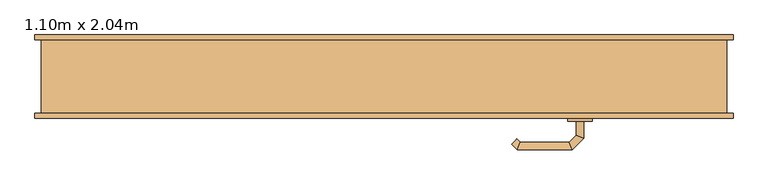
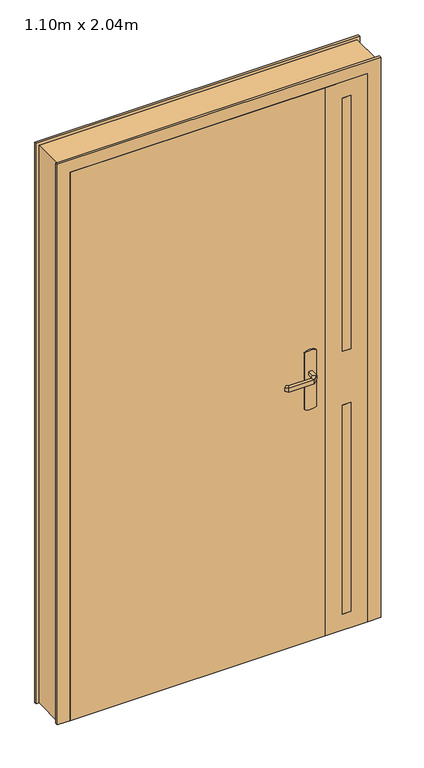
"""IFC4 building model written with IfcOpenShell, lengths in millimetres: door geometry, Tierce  160 : 1.10m x 2.04m."""

from ifc_helpers import new_model, si_unit, point, frame, frame_2d, origin, origin_with_axes, place, context, project, spatial, polyline, circle_curve, ellipse_curve, trimmed, segment, composite_curve, outline, extrude, faceted_brep, source, transform, mapped, element, save
from ifc_brep_helpers import plane_surface, cylinder_surface, advanced_brep


def door_1_10m_x_2_04m_60f23ce3(model_context):
    return source(origin(), model_context, "Body", "SolidModel", [
        advanced_brep(
        [(314.0, -23.0, 993.0), (326.0, -23.0, 993.0), (326.0, -23.0, 1007.0), (314.0, -23.0, 1007.0), (314.0, -0.5147955, 1007.0), (314.0, -0.5147955, 993.0), (326.0, 4.4557673, 1007.0), (326.0, 4.4557673, 993.0), (302.5147186, 10.9704859, 1007.0), (302.5147186, 10.9704859, 993.0), (307.4852814, 22.9704859, 1007.0), (307.4852814, 22.9704859, 993.0), (222.4394977, 10.9704859, 1007.0), (222.4394977, 10.9704859, 993.0), (217.468935, 22.9704859, 1007.0), (217.468935, 22.9704859, 993.0), (217.1257892, 5.6567774, 993.0), (217.1257892, 5.6567774, 1007.0), (208.6405078, 14.1420588, 1007.0), (208.6405078, 14.1420588, 993.0)],
        [
            (0, 1, circle_curve(frame((320.0, -23.0, 1013.0457722), z_axis=(0.0, -1.0, 0.0), x_axis=(1.0, 0.0, 0.0)), 20.9244589)),
            (1, 2),
            (2, 3, circle_curve(frame((320.0, -23.0, 986.9542278), z_axis=(0.0, -1.0, 0.0), x_axis=(1.0, 0.0, 0.0)), 20.9244589)),
            (3, 0),
            (3, 4),
            (4, 5),
            (5, 0),
            (2, 6),
            (6, 4, ellipse_curve(frame((320.0, 1.9704859, 986.9542278), z_axis=(0.38268343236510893, -0.9238795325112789, 0.0), x_axis=(-0.9238795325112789, -0.3826834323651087, 0.0)), 22.6484711, 20.9244589)),
            (1, 7),
            (7, 6),
            (5, 7, ellipse_curve(frame((320.0, 1.9704859, 1013.0457722), z_axis=(0.38268343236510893, -0.9238795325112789, 0.0), x_axis=(-0.9238795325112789, -0.3826834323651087, 0.0)), 22.6484711, 20.9244589)),
            (4, 8),
            (8, 9),
            (9, 5),
            (6, 10),
            (10, 8, ellipse_curve(frame((305.0, 16.9704859, 986.9542278), z_axis=(0.9238795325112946, -0.38268343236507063, 0.0), x_axis=(-0.3826834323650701, -0.9238795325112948, 0.0)), 22.6484711, 20.9244589)),
            (7, 11),
            (11, 10),
            (9, 11, ellipse_curve(frame((305.0, 16.9704859, 1013.0457722), z_axis=(0.9238795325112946, -0.38268343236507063, 0.0), x_axis=(-0.3826834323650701, -0.9238795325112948, 0.0)), 22.6484711, 20.9244589)),
            (8, 12),
            (12, 13),
            (13, 9),
            (10, 14),
            (14, 12, ellipse_curve(frame((219.9542163, 16.9704859, 986.9542278), z_axis=(0.9238795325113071, 0.38268343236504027, 0.0), x_axis=(0.38268343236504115, -0.9238795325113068, 0.0)), 22.6484711, 20.9244589)),
            (11, 15),
            (15, 14),
            (13, 15, ellipse_curve(frame((219.9542163, 16.9704859, 1013.0457722), z_axis=(0.9238795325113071, 0.38268343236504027, 0.0), x_axis=(0.38268343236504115, -0.9238795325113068, 0.0)), 22.6484711, 20.9244589)),
            (16, 17),
            (17, 18, circle_curve(frame((212.8831485, 9.8994181, 986.9542278), z_axis=(-0.7071067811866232, -0.7071067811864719, 0.0), x_axis=(-0.7071067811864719, 0.7071067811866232, 0.0)), 20.9244589)),
            (18, 19),
            (19, 16, circle_curve(frame((212.8831485, 9.8994181, 1013.0457722), z_axis=(-0.7071067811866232, -0.7071067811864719, 0.0), x_axis=(-0.7071067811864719, 0.7071067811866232, 0.0)), 20.9244589)),
            (12, 17),
            (16, 13),
            (14, 18),
            (15, 19),
        ],
        [
            plane_surface(frame((329.2195445, -23.0, 1000.0), z_axis=(0.0, -1.0, 0.0), x_axis=(0.0, 0.0, 1.0))),
            plane_surface(frame((314.0, -23.0, 993.0), z_axis=(-1.0, 0.0, 0.0), x_axis=(0.0, 1.0, 0.0))),
            cylinder_surface(frame((320.0, -23.0, 986.9542278), z_axis=(0.0, -1.0, 0.0), x_axis=(1.0, 0.0, 0.0)), 20.9244589),
            plane_surface(frame((326.0, -23.0, 1007.0), z_axis=(1.0, 0.0, 0.0), x_axis=(0.0, 1.0, 0.0))),
            cylinder_surface(frame((320.0, -23.0, 1013.0457722), z_axis=(0.0, -1.0, 0.0), x_axis=(1.0, 0.0, 0.0)), 20.9244589),
            plane_surface(frame((314.0, -0.5147955, 993.0), z_axis=(-0.707106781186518, -0.707106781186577, 0.0), x_axis=(-0.707106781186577, 0.707106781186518, 0.0))),
            cylinder_surface(frame((320.0, 1.9704859, 986.9542278), z_axis=(0.7071067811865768, -0.7071067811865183, 0.0), x_axis=(0.7071067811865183, 0.7071067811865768, 0.0)), 20.9244589),
            plane_surface(frame((326.0, 4.4557673, 1007.0), z_axis=(0.7071067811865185, 0.7071067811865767, 0.0), x_axis=(-0.7071067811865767, 0.7071067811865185, 0.0))),
            cylinder_surface(frame((320.0, 1.9704859, 1013.0457722), z_axis=(0.7071067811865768, -0.7071067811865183, 0.0), x_axis=(0.7071067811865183, 0.7071067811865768, 0.0)), 20.9244589),
            plane_surface(frame((302.5147186, 10.9704859, 993.0), z_axis=(0.0, -1.0, 0.0), x_axis=(-1.0, 0.0, 0.0))),
            cylinder_surface(frame((305.0, 16.9704859, 986.9542278), z_axis=(1.0, 0.0, 0.0), x_axis=(0.0, 1.0, 0.0)), 20.9244589),
            plane_surface(frame((307.4852814, 22.9704859, 1007.0), z_axis=(0.0, 1.0, 0.0), x_axis=(-1.0, 0.0, 0.0))),
            cylinder_surface(frame((305.0, 16.9704859, 1013.0457722), z_axis=(1.0, 0.0, 0.0), x_axis=(0.0, 1.0, 0.0)), 20.9244589),
            plane_surface(frame((212.8831485, 9.8994181, 990.7804555), z_axis=(-0.7071067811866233, -0.7071067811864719, 0.0), x_axis=(-0.7071067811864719, 0.7071067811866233, 0.0))),
            plane_surface(frame((222.4394977, 10.9704859, 993.0), z_axis=(0.707106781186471, -0.7071067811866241, 0.0), x_axis=(-0.7071067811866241, -0.707106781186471, 0.0))),
            cylinder_surface(frame((219.9542163, 16.9704859, 986.9542278), z_axis=(0.7071067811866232, 0.7071067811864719, 0.0), x_axis=(-0.7071067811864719, 0.7071067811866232, 0.0)), 20.9244589),
            plane_surface(frame((217.468935, 22.9704859, 1007.0), z_axis=(-0.7071067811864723, 0.7071067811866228, 0.0), x_axis=(-0.7071067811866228, -0.7071067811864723, 0.0))),
            cylinder_surface(frame((219.9542163, 16.9704859, 1013.0457722), z_axis=(0.7071067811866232, 0.7071067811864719, 0.0), x_axis=(-0.7071067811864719, 0.7071067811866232, 0.0)), 20.9244589),
        ],
        [
            (0, [[1, 2, 3, 4]]),
            (1, [[5, 6, 7, -4]]),
            (2, [[8, 9, -5, -3]]),
            (3, [[10, 11, -8, -2]]),
            (4, [[-7, 12, -10, -1]]),
            (5, [[13, 14, 15, -6]]),
            (6, [[16, 17, -13, -9]]),
            (7, [[18, 19, -16, -11]]),
            (8, [[-15, 20, -18, -12]]),
            (9, [[21, 22, 23, -14]]),
            (10, [[24, 25, -21, -17]]),
            (11, [[26, 27, -24, -19]]),
            (12, [[-23, 28, -26, -20]]),
            (13, [[29, 30, 31, 32]]),
            (14, [[33, -29, 34, -22]]),
            (15, [[35, -30, -33, -25]]),
            (16, [[36, -31, -35, -27]]),
            (17, [[-34, -32, -36, -28]]),
        ],
    ),
        advanced_brep(
        [(326.0, -73.0, 1007.0), (326.0, -73.0, 993.0), (314.0, -73.0, 993.0), (314.0, -73.0, 1007.0), (314.0, -95.680388, 1007.0), (326.0, -100.6509507, 1007.0), (314.0, -95.680388, 993.0), (326.0, -100.6509507, 993.0), (302.6522273, -107.0281607, 1007.0), (307.62279, -119.0281607, 1007.0), (302.6522273, -107.0281607, 993.0), (307.62279, -119.0281607, 993.0), (222.4666408, -107.0281607, 1007.0), (217.496078, -119.0281607, 1007.0), (222.4666408, -107.0281607, 993.0), (217.496078, -119.0281607, 993.0), (208.6676509, -110.1997336, 1007.0), (217.1529323, -101.7144522, 1007.0), (217.1529323, -101.7144522, 993.0), (208.6676509, -110.1997336, 993.0)],
        [
            (0, 1),
            (1, 2, circle_curve(frame((320.0, -73.0, 1013.0457722), z_axis=(0.0, 1.0, 0.0), x_axis=(-1.0, 0.0, 0.0)), 20.9244589)),
            (2, 3),
            (3, 0, circle_curve(frame((320.0, -73.0, 986.9542278), z_axis=(0.0, 1.0, 0.0), x_axis=(-1.0, 0.0, 0.0)), 20.9244589)),
            (3, 4),
            (4, 5, ellipse_curve(frame((320.0, -98.1656693, 986.9542278), z_axis=(0.3826834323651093, 0.9238795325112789, 0.0), x_axis=(-0.9238795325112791, 0.38268343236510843, 0.0)), 22.6484711, 20.9244589)),
            (5, 0),
            (2, 6),
            (6, 4),
            (1, 7),
            (7, 6, ellipse_curve(frame((320.0, -98.1656693, 1013.0457722), z_axis=(0.3826834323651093, 0.9238795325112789, 0.0), x_axis=(-0.9238795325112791, 0.38268343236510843, 0.0)), 22.6484711, 20.9244589)),
            (5, 7),
            (4, 8),
            (8, 9, ellipse_curve(frame((305.1375086, -113.0281607, 986.9542278), z_axis=(0.9238795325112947, 0.38268343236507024, 0.0), x_axis=(-0.3826834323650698, 0.9238795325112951, 0.0)), 22.6484711, 20.9244589)),
            (9, 5),
            (6, 10),
            (10, 8),
            (7, 11),
            (11, 10, ellipse_curve(frame((305.1375086, -113.0281607, 1013.0457722), z_axis=(0.9238795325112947, 0.38268343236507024, 0.0), x_axis=(-0.3826834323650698, 0.9238795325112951, 0.0)), 22.6484711, 20.9244589)),
            (9, 11),
            (8, 12),
            (12, 13, ellipse_curve(frame((219.9813594, -113.0281607, 986.9542278), z_axis=(0.9238795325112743, -0.3826834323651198, 0.0), x_axis=(0.38268343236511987, 0.9238795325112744, 0.0)), 22.6484711, 20.9244589)),
            (13, 9),
            (10, 14),
            (14, 12),
            (11, 15),
            (15, 14, ellipse_curve(frame((219.9813594, -113.0281607, 1013.0457722), z_axis=(0.9238795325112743, -0.3826834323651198, 0.0), x_axis=(0.38268343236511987, 0.9238795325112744, 0.0)), 22.6484711, 20.9244589)),
            (13, 15),
            (16, 17, circle_curve(frame((212.9102916, -105.9570929, 986.9542278), z_axis=(-0.7071067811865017, 0.7071067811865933, 0.0), x_axis=(0.7071067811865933, 0.7071067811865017, 0.0)), 20.9244589)),
            (17, 18),
            (18, 19, circle_curve(frame((212.9102916, -105.9570929, 1013.0457722), z_axis=(-0.7071067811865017, 0.7071067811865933, 0.0), x_axis=(0.7071067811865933, 0.7071067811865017, 0.0)), 20.9244589)),
            (19, 16),
            (12, 17),
            (16, 13),
            (14, 18),
            (15, 19),
        ],
        [
            plane_surface(frame((329.2195445, -73.0, 1000.0), z_axis=(0.0, 1.0, 0.0), x_axis=(0.0, 0.0, -1.0))),
            cylinder_surface(frame((320.0, -73.0, 986.9542278), z_axis=(0.0, 1.0, 0.0), x_axis=(-1.0, 0.0, 0.0)), 20.9244589),
            plane_surface(frame((314.0, -73.0, 1007.0), z_axis=(-1.0, 0.0, 0.0), x_axis=(0.0, -1.0, 0.0))),
            cylinder_surface(frame((320.0, -73.0, 1013.0457722), z_axis=(0.0, 1.0, 0.0), x_axis=(-1.0, 0.0, 0.0)), 20.9244589),
            plane_surface(frame((326.0, -73.0, 993.0), z_axis=(1.0, 0.0, 0.0), x_axis=(0.0, -1.0, 0.0))),
            cylinder_surface(frame((320.0, -98.1656693, 986.9542278), z_axis=(0.7071067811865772, 0.7071067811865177, 0.0), x_axis=(-0.7071067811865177, 0.7071067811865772, 0.0)), 20.9244589),
            plane_surface(frame((314.0, -95.680388, 1007.0), z_axis=(-0.7071067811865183, 0.7071067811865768, 0.0), x_axis=(-0.7071067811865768, -0.7071067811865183, 0.0))),
            cylinder_surface(frame((320.0, -98.1656693, 1013.0457722), z_axis=(0.7071067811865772, 0.7071067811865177, 0.0), x_axis=(-0.7071067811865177, 0.7071067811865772, 0.0)), 20.9244589),
            plane_surface(frame((326.0, -100.6509507, 993.0), z_axis=(0.707106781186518, -0.707106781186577, 0.0), x_axis=(-0.707106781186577, -0.707106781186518, 0.0))),
            cylinder_surface(frame((305.1375086, -113.0281607, 986.9542278), z_axis=(1.0, 0.0, 0.0), x_axis=(0.0, 1.0, 0.0)), 20.9244589),
            plane_surface(frame((302.6522273, -107.0281607, 1007.0), z_axis=(0.0, 1.0, 0.0), x_axis=(-1.0, 0.0, 0.0))),
            cylinder_surface(frame((305.1375086, -113.0281607, 1013.0457722), z_axis=(1.0, 0.0, 0.0), x_axis=(0.0, 1.0, 0.0)), 20.9244589),
            plane_surface(frame((307.62279, -119.0281607, 993.0), z_axis=(0.0, -1.0, 0.0), x_axis=(-1.0, 0.0, 0.0))),
            plane_surface(frame((212.9102916, -105.9570929, 1009.2195445), z_axis=(-0.7071067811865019, 0.7071067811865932, 0.0), x_axis=(-0.7071067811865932, -0.7071067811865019, 0.0))),
            cylinder_surface(frame((219.9813594, -113.0281607, 986.9542278), z_axis=(0.7071067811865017, -0.7071067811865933, 0.0), x_axis=(0.7071067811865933, 0.7071067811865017, 0.0)), 20.9244589),
            plane_surface(frame((222.4666408, -107.0281607, 1007.0), z_axis=(0.7071067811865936, 0.7071067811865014, 0.0), x_axis=(-0.7071067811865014, 0.7071067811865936, 0.0))),
            cylinder_surface(frame((219.9813594, -113.0281607, 1013.0457722), z_axis=(0.7071067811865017, -0.7071067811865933, 0.0), x_axis=(0.7071067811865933, 0.7071067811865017, 0.0)), 20.9244589),
            plane_surface(frame((217.496078, -119.0281607, 993.0), z_axis=(-0.707106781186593, -0.7071067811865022, 0.0), x_axis=(-0.7071067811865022, 0.707106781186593, 0.0))),
        ],
        [
            (0, [[1, 2, 3, 4]]),
            (1, [[5, 6, 7, -4]]),
            (2, [[8, 9, -5, -3]]),
            (3, [[10, 11, -8, -2]]),
            (4, [[-7, 12, -10, -1]]),
            (5, [[13, 14, 15, -6]]),
            (6, [[16, 17, -13, -9]]),
            (7, [[18, 19, -16, -11]]),
            (8, [[-15, 20, -18, -12]]),
            (9, [[21, 22, 23, -14]]),
            (10, [[24, 25, -21, -17]]),
            (11, [[26, 27, -24, -19]]),
            (12, [[-23, 28, -26, -20]]),
            (13, [[29, 30, 31, 32]]),
            (14, [[33, -29, 34, -22]]),
            (15, [[35, -30, -33, -25]]),
            (16, [[36, -31, -35, -27]]),
            (17, [[-34, -32, -36, -28]]),
        ],
    ),
        extrude(outline(composite_curve([segment(polyline([(1080.0, 300.0), (870.0, 300.0)]), True, "CONTINUOUS"), segment(trimmed(circle_curve(frame_2d((904.6410162, 320.0)), 40.0), [point((870.0, 300.0))], [point((870.0, 340.0))], False, "CARTESIAN"), True, "CONTINUOUS"), segment(polyline([(870.0, 340.0), (1080.0, 340.0)]), True, "CONTINUOUS"), segment(trimmed(circle_curve(frame_2d((1045.3589838, 320.0)), 40.0), [point((1080.0, 340.0))], [point((1080.0, 300.0))], False, "CARTESIAN"), True, "CONTINUOUS")], self_intersect=False)), frame((0.0, -28.0, 0.0), z_axis=(0.0, 1.0, 0.0), x_axis=(0.0, 0.0, 1.0)), (0.0, 0.0, 1.0), 5.0),
        extrude(outline(composite_curve([segment(polyline([(870.0, 340.0), (1080.0, 340.0)]), True, "CONTINUOUS"), segment(trimmed(circle_curve(frame_2d((1045.3589838, 320.0)), 40.0), [point((1080.0, 340.0))], [point((1080.0, 300.0))], False, "CARTESIAN"), True, "CONTINUOUS"), segment(polyline([(1080.0, 300.0), (870.0, 300.0)]), True, "CONTINUOUS"), segment(trimmed(circle_curve(frame_2d((904.6410162, 320.0)), 40.0), [point((870.0, 300.0))], [point((870.0, 340.0))], False, "CARTESIAN"), True, "CONTINUOUS")], self_intersect=False)), frame((0.0, -73.0, 0.0), z_axis=(0.0, 1.0, 0.0), x_axis=(0.0, 0.0, 1.0)), (0.0, 0.0, 1.0), 5.0),
        faceted_brep([(-560.0, -60.0, 0.0), (-560.0, 60.0, 0.0), (-570.0, 60.0, 0.0), (-570.0, 68.0, 0.0), (-510.0, 68.0, 0.0), (-510.0, -28.0, 0.0), (-525.0, -28.0, 0.0), (-525.0, -68.0, 0.0), (-570.0, -68.0, 0.0), (-570.0, -60.0, 0.0), (-560.0, -60.0, 2075.0), (-560.0, 60.0, 2075.0), (560.0, 60.0, 2075.0), (560.0, 60.0, 0.0), (570.0, 60.0, 0.0), (570.0, 60.0, 2085.0), (-570.0, 60.0, 2085.0), (-570.0, 68.0, 2085.0), (570.0, 68.0, 2085.0), (570.0, 68.0, 0.0), (510.0, 68.0, 0.0), (510.0, 68.0, 2025.0), (-510.0, 68.0, 2025.0), (-510.0, -28.0, 2025.0), (510.0, -28.0, 2025.0), (510.0, -28.0, 0.0), (525.0, -28.0, 0.0), (525.0, -28.0, 2040.0), (-525.0, -28.0, 2040.0), (-525.0, -68.0, 2040.0), (525.0, -68.0, 2040.0), (525.0, -68.0, 0.0), (570.0, -68.0, 0.0), (570.0, -68.0, 2085.0), (-570.0, -68.0, 2085.0), (-570.0, -60.0, 2085.0), (570.0, -60.0, 2085.0), (570.0, -60.0, 0.0), (560.0, -60.0, 0.0), (560.0, -60.0, 2075.0)], [[[0, 1, 2, 3, 4, 5, 6, 7, 8, 9]], [[1, 0, 10, 11]], [[2, 1, 11, 12, 13, 14, 15, 16]], [[3, 2, 16, 17]], [[4, 3, 17, 18, 19, 20, 21, 22]], [[5, 4, 22, 23]], [[6, 5, 23, 24, 25, 26, 27, 28]], [[7, 6, 28, 29]], [[8, 7, 29, 30, 31, 32, 33, 34]], [[9, 8, 34, 35]], [[0, 9, 35, 36, 37, 38, 39, 10]], [[12, 39, 38, 13]], [[38, 37, 32, 31, 26, 25, 20, 19, 14, 13]], [[18, 15, 14, 19]], [[24, 21, 20, 25]], [[30, 27, 26, 31]], [[36, 33, 32, 37]], [[11, 10, 39, 12]], [[17, 16, 15, 18]], [[23, 22, 21, 24]], [[29, 28, 27, 30]], [[35, 34, 33, 36]]]),
        extrude(outline(polyline([(465.0, -68.0), (435.0, -68.0), (435.0, -28.0), (465.0, -28.0), (465.0, -68.0)])), frame((0.0, 0.0, 60.0), z_axis=(0.0, 0.0, 1.0), x_axis=(1.0, 0.0, 0.0)), (0.0, 0.0, 1.0), 777.5),
        extrude(outline(polyline([(465.0, -68.0), (435.0, -68.0), (435.0, -28.0), (465.0, -28.0), (465.0, -68.0)])), frame((0.0, 0.0, 1037.5), z_axis=(0.0, 0.0, 1.0), x_axis=(1.0, 0.0, 0.0)), (0.0, 0.0, 1.0), 942.5),
        extrude(outline(polyline([(2040.0, 525.0), (2040.0, 375.0), (0.0, 375.0), (0.0, 525.0), (2040.0, 525.0)]), holes=[polyline([(837.5, 435.0), (837.5, 465.0), (60.0, 465.0), (60.0, 435.0), (837.5, 435.0)]), polyline([(1037.5, 465.0), (1037.5, 435.0), (1980.0, 435.0), (1980.0, 465.0), (1037.5, 465.0)])]), frame((0.0, -68.0, 0.0), z_axis=(0.0, 1.0, 0.0), x_axis=(0.0, 0.0, 1.0)), (0.0, 0.0, 1.0), 40.0),
        extrude(outline(polyline([(375.0, -68.0), (-525.0, -68.0), (-525.0, -28.0), (375.0, -28.0), (375.0, -68.0)])), origin_with_axes(), (0.0, 0.0, 1.0), 2040.0),
    ])


if __name__ == "__main__":
    model = new_model("IFC4")
    model_context = context("Model", 3, world=origin())
    ifc_project = project(units=[si_unit("LENGTHUNIT", "METRE", prefix="MILLI")], contexts=[model_context])
    site = spatial("IfcSite", under=ifc_project)
    building = spatial("IfcBuilding", under=site)
    placement = place(None, origin())
    door_1_10m_x_2_04m_shape = door_1_10m_x_2_04m_60f23ce3(model_context)
    element("IfcDoor", 1, ObjectType="Tierce  160 : 1.10m x 2.04m", at=placement, inside=building, context=model_context, shape_type="MappedRepresentation", body=[
        mapped(door_1_10m_x_2_04m_shape, transform((0.0, 0.0, 0.0), x_axis=(1.0, 0.0, 0.0), y_axis=(0.0, 1.0, 0.0), z_axis=(0.0, 0.0, 1.0))),
    ])
    save(model, "model.ifc")
